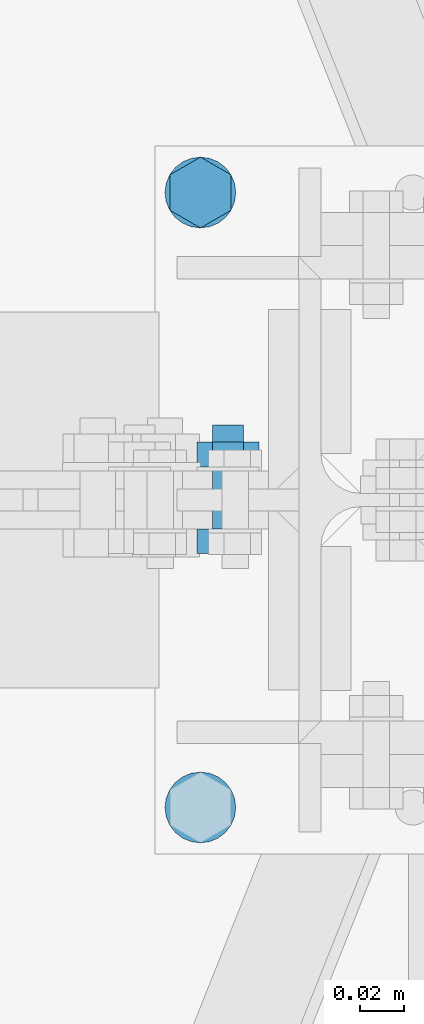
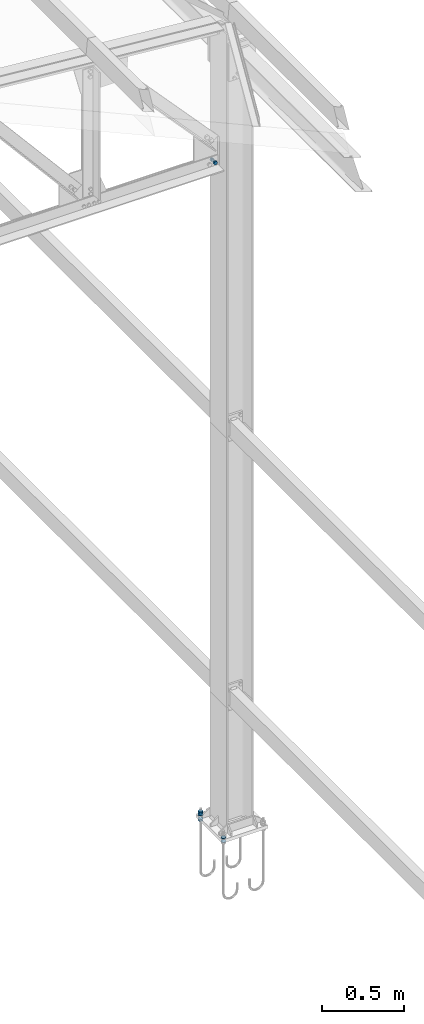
# One storey, part 160 of 251: 10 mechanical fasteners.
"""IFC4 building model written with IfcOpenShell, lengths in metres."""

from ifc_helpers import new_model, si_unit, frame, origin_with_axes, place, context, project, spatial, polyline, outline, extrude, type_object, element, save


model = new_model("IFC4")

# Units and contexts
model_context = context("Model", 3, precision=1e-05, world=origin_with_axes())
ifc_project = project(units=[si_unit("LENGTHUNIT", "METRE"), si_unit("AREAUNIT", "SQUARE_METRE"), si_unit("VOLUMEUNIT", "CUBIC_METRE"), si_unit("MASSUNIT", "GRAM", prefix="KILO"), si_unit("TIMEUNIT", "SECOND"), si_unit("PLANEANGLEUNIT", "RADIAN"), si_unit("SOLIDANGLEUNIT", "STERADIAN"), si_unit("THERMODYNAMICTEMPERATUREUNIT", "DEGREE_CELSIUS")], contexts=[model_context])

# Site, building, storey
placement_1 = place(None, origin_with_axes())
site = spatial("IfcSite", under=ifc_project, at=placement_1, Name="Italia", CompositionType="ELEMENT")
building = spatial("IfcBuilding", under=site, at=placement_1, Name="Deposito", CompositionType="ELEMENT")
storey = spatial("IfcBuildingStorey", under=building, at=placement_1, Name="Storey 0", CompositionType="ELEMENT", Elevation=0.0)

# Mechanical fasteners
mechanical_fastener_type_1 = type_object("IfcMechanicalFastenerType", Name="Collegamenti 0014_-001 0016_-054 0018_-056 0032_-002 0033_-058 0047_-003 0048_-060 0062_-004 0063_-005 0079_-008", PredefinedType="BOLT")
placement_2 = place(placement_1, origin_with_axes())
mechanical_fastener_1_placement = place(placement_2, origin_with_axes())
element("IfcMechanicalFastener", 1, at=mechanical_fastener_1_placement, inside=storey, type_object=mechanical_fastener_type_1, Name="Collegamenti 0014_-001 0016_-054 0018_-056 0032_-002 0033_-058 0047_-003 0048_-060 0062_-004 0063_-005 0079_-008", NominalDiameter=0.032, context=model_context, shape_type="SweptSolid", body=[
    extrude(outline(polyline([(0.0, 0.0), (-0.000544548, -0.00414085), (-0.00214386, -0.00799942), (-0.00468636, -0.0113144), (-0.00799942, -0.0138569), (-0.0118589, -0.0154552), (-0.0159998, -0.0160007), (-0.0201406, -0.0154552), (-0.0240002, -0.0138569), (-0.0273132, -0.0113144), (-0.0298557, -0.00799942), (-0.031455, -0.00414085), (-0.0319996, 0.0), (-0.031455, 0.00414085), (-0.0298557, 0.00799942), (-0.0273132, 0.0113144), (-0.0240002, 0.0138569), (-0.0201406, 0.0154552), (-0.0159998, 0.0160007), (-0.0118589, 0.0154552), (-0.00799942, 0.0138569), (-0.00468636, 0.0113144), (-0.00214386, 0.00799942), (-0.000544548, 0.00414085), (0.0, 0.0)])), frame((19.8605, 9.877, 0.075), z_axis=(0.0, 0.0, 1.0), x_axis=(0.0, 1.0, 0.0)), (0.0, 0.0, 1.0), 0.00399999),
])
mechanical_fastener_type_2 = type_object("IfcMechanicalFastenerType", Name="Collegamenti 0014_-001 0016_-054 0018_-056 0032_-002 0033_-058 0047_-003 0048_-060 0062_-004 0063_-005 0079_-008", PredefinedType="BOLT")
mechanical_fastener_2_placement = place(placement_2, origin_with_axes())
element("IfcMechanicalFastener", 2, at=mechanical_fastener_2_placement, inside=storey, type_object=mechanical_fastener_type_2, Name="Collegamenti 0014_-001 0016_-054 0018_-056 0032_-002 0033_-058 0047_-003 0048_-060 0062_-004 0063_-005 0079_-008", NominalDiameter=0.032, context=model_context, shape_type="SweptSolid", body=[
    extrude(outline(polyline([(0.0, 0.0), (-0.000544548, -0.00414085), (-0.00214386, -0.00799942), (-0.00468636, -0.0113144), (-0.00799942, -0.0138569), (-0.0118589, -0.0154552), (-0.0159998, -0.0160007), (-0.0201406, -0.0154552), (-0.0240002, -0.0138569), (-0.0273132, -0.0113144), (-0.0298557, -0.00799942), (-0.031455, -0.00414085), (-0.0319996, 0.0), (-0.031455, 0.00414085), (-0.0298557, 0.00799942), (-0.0273132, 0.0113144), (-0.0240002, 0.0138569), (-0.0201406, 0.0154552), (-0.0159998, 0.0160007), (-0.0118589, 0.0154552), (-0.00799942, 0.0138569), (-0.00468636, 0.0113144), (-0.00214386, 0.00799942), (-0.000544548, 0.00414085), (0.0, 0.0)])), frame((19.8605, 9.877, 0.046), z_axis=(0.0, 0.0, 1.0), x_axis=(0.0, 1.0, 0.0)), (0.0, 0.0, 1.0), 0.004),
])
mechanical_fastener_type_3 = type_object("IfcMechanicalFastenerType", Name="Collegamenti 0014_-001 0016_-054 0018_-056 0032_-002 0033_-058 0047_-003 0048_-060 0062_-004 0063_-005 0079_-008", PredefinedType="BOLT")
mechanical_fastener_3_placement = place(placement_2, origin_with_axes())
element("IfcMechanicalFastener", 3, at=mechanical_fastener_3_placement, inside=storey, type_object=mechanical_fastener_type_3, Name="Collegamenti 0014_-001 0016_-054 0018_-056 0032_-002 0033_-058 0047_-003 0048_-060 0062_-004 0063_-005 0079_-008", NominalDiameter=0.0160001, context=model_context, shape_type="SweptSolid", body=[
    extrude(outline(polyline([(0.0, 0.0), (-0.0160007, 0.0), (-0.0240002, 0.0138569), (-0.0160007, 0.0277138), (0.0, 0.0277138), (0.00799942, 0.0138569), (0.0, 0.0)])), frame((19.8744, 10.147, 0.079), z_axis=(0.0, 0.0, 1.0), x_axis=(0.0, 1.0, 0.0)), (0.0, 0.0, 1.0), 0.0128),
])
mechanical_fastener_type_4 = type_object("IfcMechanicalFastenerType", Name="Collegamenti 0014_-001 0016_-054 0018_-056 0032_-002 0033_-058 0047_-003 0048_-060 0062_-004 0063_-005 0079_-008", PredefinedType="BOLT")
mechanical_fastener_4_placement = place(placement_2, origin_with_axes())
element("IfcMechanicalFastener", 4, at=mechanical_fastener_4_placement, inside=storey, type_object=mechanical_fastener_type_4, Name="Collegamenti 0014_-001 0016_-054 0018_-056 0032_-002 0033_-058 0047_-003 0048_-060 0062_-004 0063_-005 0079_-008", NominalDiameter=0.0160001, context=model_context, shape_type="SweptSolid", body=[
    extrude(outline(polyline([(0.0, 0.0), (-0.0160007, 0.0), (-0.0240002, 0.0138569), (-0.0160007, 0.0277138), (0.0, 0.0277138), (0.00799942, 0.0138569), (0.0, 0.0)])), frame((19.8744, 10.147, 0.0918), z_axis=(0.0, 0.0, 1.0), x_axis=(0.0, 1.0, 0.0)), (0.0, 0.0, 1.0), 0.0128),
])
mechanical_fastener_type_5 = type_object("IfcMechanicalFastenerType", Name="Collegamenti 0014_-001 0016_-054 0018_-056 0032_-002 0033_-058 0047_-003 0048_-060 0062_-004 0063_-005 0079_-008", PredefinedType="BOLT")
mechanical_fastener_5_placement = place(placement_2, origin_with_axes())
element("IfcMechanicalFastener", 5, at=mechanical_fastener_5_placement, inside=storey, type_object=mechanical_fastener_type_5, Name="Collegamenti 0014_-001 0016_-054 0018_-056 0032_-002 0033_-058 0047_-003 0048_-060 0062_-004 0063_-005 0079_-008", NominalDiameter=0.0160001, context=model_context, shape_type="SweptSolid", body=[
    extrude(outline(polyline([(0.0, 0.0), (-0.0160007, 0.0), (-0.0240002, 0.0138569), (-0.0160007, 0.0277138), (0.0, 0.0277138), (0.00799942, 0.0138569), (0.0, 0.0)])), frame((19.8744, 10.147, 0.0332), z_axis=(0.0, 0.0, 1.0), x_axis=(0.0, 1.0, 0.0)), (0.0, 0.0, 1.0), 0.0128),
])
mechanical_fastener_type_6 = type_object("IfcMechanicalFastenerType", Name="Collegamenti 0014_-001 0016_-054 0018_-056 0032_-002 0033_-058 0047_-003 0048_-060 0062_-004 0063_-005 0079_-008", PredefinedType="BOLT")
mechanical_fastener_6_placement = place(placement_2, origin_with_axes())
element("IfcMechanicalFastener", 6, at=mechanical_fastener_6_placement, inside=storey, type_object=mechanical_fastener_type_6, Name="Collegamenti 0014_-001 0016_-054 0018_-056 0032_-002 0033_-058 0047_-003 0048_-060 0062_-004 0063_-005 0079_-008", NominalDiameter=0.032, context=model_context, shape_type="SweptSolid", body=[
    extrude(outline(polyline([(0.0, 0.0), (-0.000544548, -0.00414085), (-0.00214386, -0.00799942), (-0.00468636, -0.0113144), (-0.00799942, -0.0138569), (-0.0118589, -0.0154552), (-0.0159998, -0.0160007), (-0.0201406, -0.0154552), (-0.0240002, -0.0138569), (-0.0273132, -0.0113144), (-0.0298557, -0.00799942), (-0.031455, -0.00414085), (-0.0319996, 0.0), (-0.031455, 0.00414085), (-0.0298557, 0.00799942), (-0.0273132, 0.0113144), (-0.0240002, 0.0138569), (-0.0201406, 0.0154552), (-0.0159998, 0.0160007), (-0.0118589, 0.0154552), (-0.00799942, 0.0138569), (-0.00468636, 0.0113144), (-0.00214386, 0.00799942), (-0.000544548, 0.00414085), (0.0, 0.0)])), frame((19.8605, 10.155, 0.075), z_axis=(0.0, 0.0, 1.0), x_axis=(0.0, 1.0, 0.0)), (0.0, 0.0, 1.0), 0.00399999),
])
mechanical_fastener_type_7 = type_object("IfcMechanicalFastenerType", Name="Collegamenti 0014_-001 0016_-054 0018_-056 0032_-002 0033_-058 0047_-003 0048_-060 0062_-004 0063_-005 0079_-008", PredefinedType="BOLT")
mechanical_fastener_7_placement = place(placement_2, origin_with_axes())
element("IfcMechanicalFastener", 7, at=mechanical_fastener_7_placement, inside=storey, type_object=mechanical_fastener_type_7, Name="Collegamenti 0014_-001 0016_-054 0018_-056 0032_-002 0033_-058 0047_-003 0048_-060 0062_-004 0063_-005 0079_-008", NominalDiameter=0.032, context=model_context, shape_type="SweptSolid", body=[
    extrude(outline(polyline([(0.0, 0.0), (-0.000544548, -0.00414085), (-0.00214386, -0.00799942), (-0.00468636, -0.0113144), (-0.00799942, -0.0138569), (-0.0118589, -0.0154552), (-0.0159998, -0.0160007), (-0.0201406, -0.0154552), (-0.0240002, -0.0138569), (-0.0273132, -0.0113144), (-0.0298557, -0.00799942), (-0.031455, -0.00414085), (-0.0319996, 0.0), (-0.031455, 0.00414085), (-0.0298557, 0.00799942), (-0.0273132, 0.0113144), (-0.0240002, 0.0138569), (-0.0201406, 0.0154552), (-0.0159998, 0.0160007), (-0.0118589, 0.0154552), (-0.00799942, 0.0138569), (-0.00468636, 0.0113144), (-0.00214386, 0.00799942), (-0.000544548, 0.00414085), (0.0, 0.0)])), frame((19.8605, 10.155, 0.046), z_axis=(0.0, 0.0, 1.0), x_axis=(0.0, 1.0, 0.0)), (0.0, 0.0, 1.0), 0.004),
])
mechanical_fastener_type_8 = type_object("IfcMechanicalFastenerType", Name="Reticolare 4", PredefinedType="BOLT")
mechanical_fastener_8_placement = place(placement_2, origin_with_axes())
element("IfcMechanicalFastener", 8, at=mechanical_fastener_8_placement, inside=storey, type_object=mechanical_fastener_type_8, Name="Reticolare 4", NominalDiameter=0.0139997, context=model_context, shape_type="SweptSolid", body=[
    extrude(outline(polyline([(0.0, 0.0), (-0.0139999, 0.0), (-0.0209999, 0.0121241), (-0.0139999, 0.0242486), (0.0, 0.0242486), (0.00699997, 0.0121241), (0.0, 0.0)])), frame((19.88, 9.987, 4.99688), z_axis=(0.0, -1.0, 0.0), x_axis=(1.0, 0.0, 0.0)), (0.0, 0.0, 1.0), 0.0112009),
])
mechanical_fastener_type_9 = type_object("IfcMechanicalFastenerType", Name="Reticolare 4", PredefinedType="BOLT")
mechanical_fastener_9_placement = place(placement_2, origin_with_axes())
element("IfcMechanicalFastener", 9, at=mechanical_fastener_9_placement, inside=storey, type_object=mechanical_fastener_type_9, Name="Reticolare 4", NominalDiameter=0.014, context=model_context, shape_type="SweptSolid", body=[
    extrude(outline(polyline([(0.0, 0.0), (-0.000238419, -0.0018115), (-0.000938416, -0.00349998), (-0.0020504, -0.00494957), (-0.00349998, -0.00606203), (-0.00518799, -0.00676155), (-0.00699997, -0.00699997), (-0.00881195, -0.00676155), (-0.0105, -0.00606203), (-0.0119495, -0.00494957), (-0.0130615, -0.00349998), (-0.0137615, -0.0018115), (-0.0139999, 0.0), (-0.0137615, 0.0018115), (-0.0130615, 0.00349998), (-0.0119495, 0.00494957), (-0.0105, 0.00606203), (-0.00881195, 0.00676155), (-0.00699997, 0.00699997), (-0.00518799, 0.00676155), (-0.00349998, 0.00606203), (-0.0020504, 0.00494957), (-0.000938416, 0.00349998), (-0.000238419, 0.0018115), (0.0, 0.0)])), frame((19.88, 10.034, 5.009), z_axis=(0.0, -1.0, 0.0), x_axis=(1.0, 0.0, 0.0)), (0.0, 0.0, 1.0), 0.0469999),
])
mechanical_fastener_type_10 = type_object("IfcMechanicalFastenerType", Name="Reticolare 4", PredefinedType="BOLT")
mechanical_fastener_10_placement = place(placement_2, origin_with_axes())
element("IfcMechanicalFastener", 10, at=mechanical_fastener_10_placement, inside=storey, type_object=mechanical_fastener_type_10, Name="Reticolare 4", NominalDiameter=0.0139997, context=model_context, shape_type="SweptSolid", body=[
    extrude(outline(polyline([(0.0, 0.0), (-0.0139999, 0.0), (-0.0209999, 0.0121241), (-0.0139999, 0.0242486), (0.0, 0.0242486), (0.00699997, 0.0121241), (0.0, 0.0)])), frame((19.88, 10.0262, 4.99688), z_axis=(0.0, -1.0, 0.0), x_axis=(1.0, 0.0, 0.0)), (0.0, 0.0, 1.0), 0.0112),
])

save(model, "model.ifc")
